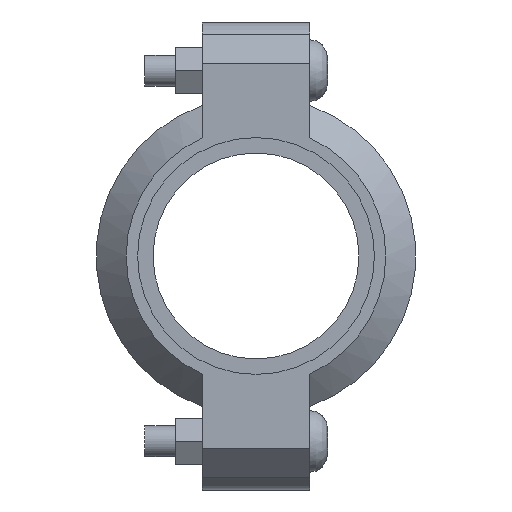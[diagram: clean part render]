
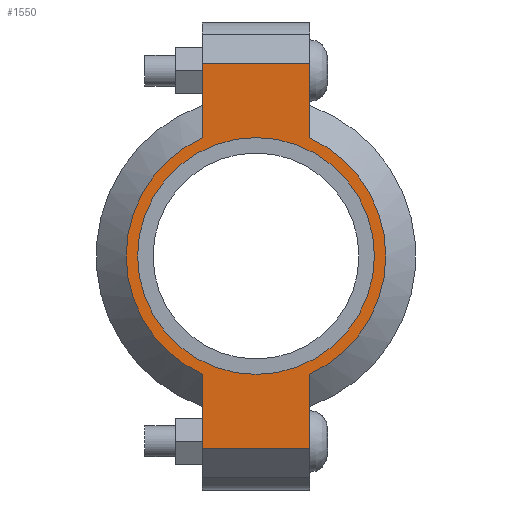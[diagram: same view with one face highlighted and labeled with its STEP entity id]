
A CAD part, left-side view. The second image highlights one B-rep face of the part: STEP entity #1550.
In plain terms, the highlighted planar face has unit normal (-1, 0, 0) as drawn and (0, 0, 1) by its records, which use the part's own axes.
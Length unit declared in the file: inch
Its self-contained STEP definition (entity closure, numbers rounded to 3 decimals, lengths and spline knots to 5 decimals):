
#174=LINE('',#2705,#267);
#182=LINE('',#2741,#275);
#189=LINE('',#2762,#282);
#198=LINE('',#2794,#291);
#199=LINE('',#2798,#292);
#200=LINE('',#2800,#293);
#267=VECTOR('',#2205,0.3937);
#275=VECTOR('',#2221,0.3937);
#282=VECTOR('',#2240,0.3937);
#291=VECTOR('',#2265,0.3937);
#292=VECTOR('',#2270,0.3937);
#293=VECTOR('',#2271,0.3937);
#349=FACE_BOUND('',#527,.T.);
#421=FACE_OUTER_BOUND('',#526,.T.);
#526=EDGE_LOOP('',(#1291,#1292,#1293,#1294,#1295,#1296,#1297,#1298));
#527=EDGE_LOOP('',(#1299));
#599=CIRCLE('',#1769,1.4375);
#625=CIRCLE('',#1828,1.575);
#626=CIRCLE('',#1829,1.575);
#691=VERTEX_POINT('',#2521);
#734=VERTEX_POINT('',#2702);
#735=VERTEX_POINT('',#2704);
#746=VERTEX_POINT('',#2736);
#747=VERTEX_POINT('',#2740);
#754=VERTEX_POINT('',#2759);
#755=VERTEX_POINT('',#2761);
#765=VERTEX_POINT('',#2797);
#766=VERTEX_POINT('',#2799);
#847=EDGE_CURVE('',#691,#691,#599,.T.);
#908=EDGE_CURVE('',#735,#734,#174,.T.);
#922=EDGE_CURVE('',#747,#746,#182,.T.);
#932=EDGE_CURVE('',#755,#754,#189,.T.);
#947=EDGE_CURVE('',#747,#734,#198,.T.);
#948=EDGE_CURVE('',#746,#755,#625,.T.);
#949=EDGE_CURVE('',#765,#754,#199,.T.);
#950=EDGE_CURVE('',#765,#766,#200,.T.);
#951=EDGE_CURVE('',#766,#735,#626,.T.);
#1291=ORIENTED_EDGE('',*,*,#947,.F.);
#1292=ORIENTED_EDGE('',*,*,#922,.T.);
#1293=ORIENTED_EDGE('',*,*,#948,.T.);
#1294=ORIENTED_EDGE('',*,*,#932,.T.);
#1295=ORIENTED_EDGE('',*,*,#949,.F.);
#1296=ORIENTED_EDGE('',*,*,#950,.T.);
#1297=ORIENTED_EDGE('',*,*,#951,.T.);
#1298=ORIENTED_EDGE('',*,*,#908,.T.);
#1299=ORIENTED_EDGE('',*,*,#847,.T.);
#1392=PLANE('',#1827);
#1550=ADVANCED_FACE('',(#421,#349),#1392,.T.);
#1769=AXIS2_PLACEMENT_3D('',#2523,#2081,#2082);
#1827=AXIS2_PLACEMENT_3D('',#2795,#2266,#2267);
#1828=AXIS2_PLACEMENT_3D('',#2796,#2268,#2269);
#1829=AXIS2_PLACEMENT_3D('',#2801,#2272,#2273);
#2081=DIRECTION('center_axis',(0.,0.,-1.));
#2082=DIRECTION('ref_axis',(-1.,0.,0.));
#2205=DIRECTION('',(-1.,0.,0.));
#2221=DIRECTION('',(1.,0.,0.));
#2240=DIRECTION('',(1.,0.,0.));
#2265=DIRECTION('',(0.,1.,0.));
#2266=DIRECTION('center_axis',(0.,0.,1.));
#2267=DIRECTION('ref_axis',(1.,0.,0.));
#2268=DIRECTION('center_axis',(0.,0.,1.));
#2269=DIRECTION('ref_axis',(-1.,0.,0.));
#2270=DIRECTION('',(0.,-1.,0.));
#2271=DIRECTION('',(-1.,0.,0.));
#2272=DIRECTION('center_axis',(0.,0.,1.));
#2273=DIRECTION('ref_axis',(-1.,0.,0.));
#2521=CARTESIAN_POINT('',(1.4375,0.,0.94));
#2523=CARTESIAN_POINT('Origin',(0.,0.,0.94));
#2702=CARTESIAN_POINT('',(-2.34,0.65,0.94));
#2704=CARTESIAN_POINT('',(-1.43462,0.65,0.94));
#2705=CARTESIAN_POINT('',(-2.84,0.65,0.94));
#2736=CARTESIAN_POINT('',(-1.43462,-0.65,0.94));
#2740=CARTESIAN_POINT('',(-2.34,-0.65,0.94));
#2741=CARTESIAN_POINT('',(2.84,-0.65,0.94));
#2759=CARTESIAN_POINT('',(2.34,-0.65,0.94));
#2761=CARTESIAN_POINT('',(1.43462,-0.65,0.94));
#2762=CARTESIAN_POINT('',(2.84,-0.65,0.94));
#2794=CARTESIAN_POINT('',(-2.34,0.325,0.94));
#2795=CARTESIAN_POINT('Origin',(0.,0.,
0.94));
#2796=CARTESIAN_POINT('Origin',(0.,0.,0.94));
#2797=CARTESIAN_POINT('',(2.34,0.65,0.94));
#2798=CARTESIAN_POINT('',(2.34,-0.325,0.94));
#2799=CARTESIAN_POINT('',(1.43462,0.65,0.94));
#2800=CARTESIAN_POINT('',(-2.84,0.65,0.94));
#2801=CARTESIAN_POINT('Origin',(0.,0.,0.94));
